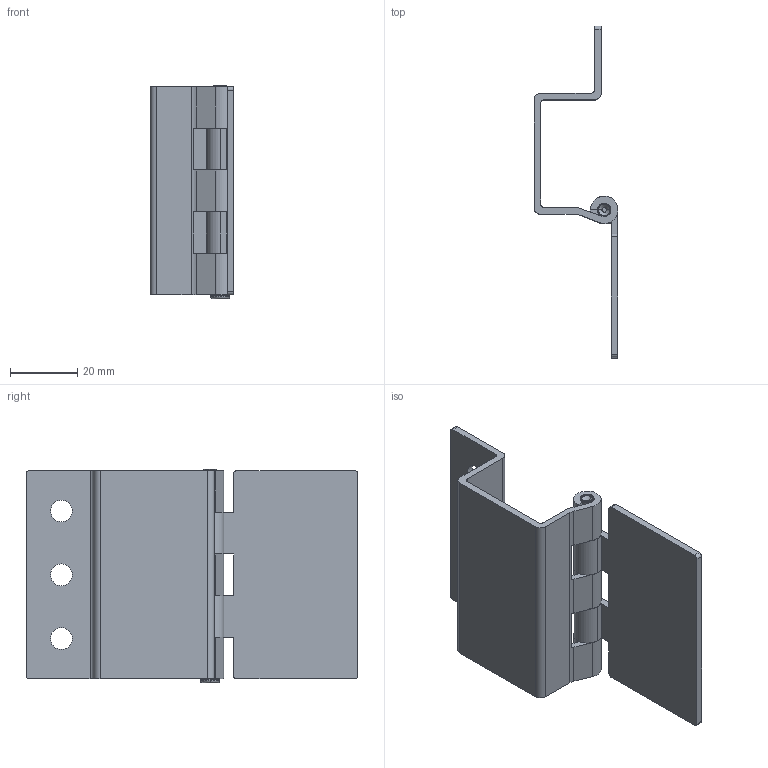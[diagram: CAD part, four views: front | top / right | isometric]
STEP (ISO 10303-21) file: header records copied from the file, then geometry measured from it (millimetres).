
FILE_DESCRIPTION (( 'STEP AP214' ), '1' );
FILE_NAME ('×°ÅäÌå1.STEP', '2023-08-24T00:16:19', ( '' ), ( '' ), 'SwSTEP 2.0', 'SolidWorks 2019', '' );
FILE_SCHEMA (( 'AUTOMOTIVE_DESIGN' ));
Length unit declared in the file: millimetre
Products named in the file (3): 1; 2; 蚾饜极1
Assembly tree (2 placements, depth 2):
  蚾饜极1
    2
    1
Bounding box: 25 x 98.73 x 63.7 mm (x, y, z)
Volume: 18435.8 mm3; surface area: 19931.7 mm2
Topology: 3 solids, 3 shells, 94 faces, 248 edges, 162 vertices
Faces by surface type: plane 48, cylinder 36, torus 8, cone 2
Entity records: 3061 total; most frequent: DIRECTION 544, CARTESIAN_POINT 509, ORIENTED_EDGE 496, EDGE_CURVE 248, AXIS2_PLACEMENT_3D 197, VERTEX_POINT 162, VECTOR 150, LINE 150
